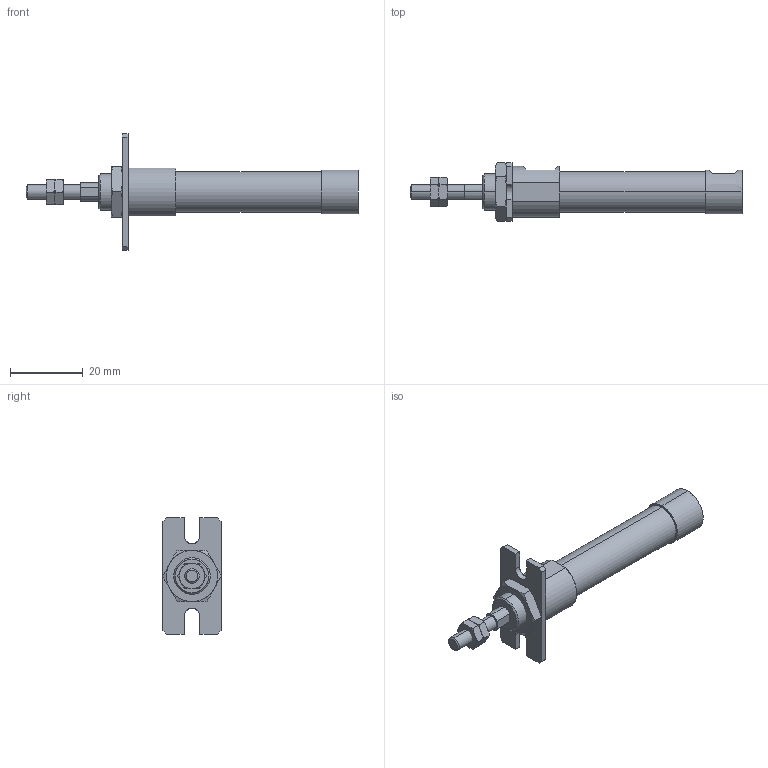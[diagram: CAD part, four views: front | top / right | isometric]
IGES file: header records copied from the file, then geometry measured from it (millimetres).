
Start section: SolidWorks IGES file using analytic representation for surfaces
Global section: file name: C:\Users\Toshiba\Desktop\ZGU2-10-15-A.IGS; native system: SolidWorks 2014; preprocessor: SolidWorks 2014; author: Toshiba; date: 160331.085020; units: millimetre
Bounding box: 91 x 16.16 x 32 mm (x, y, z)
Surface area: 5052.2 mm2 (no closed solid volume)
Topology: 0 solids, 0 shells, 129 faces, 1844 edges, 1840 vertices
Faces by surface type: bspline 93, revolution 36
